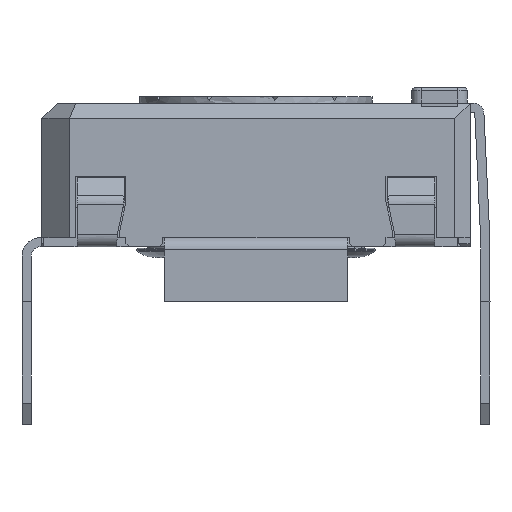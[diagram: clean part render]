
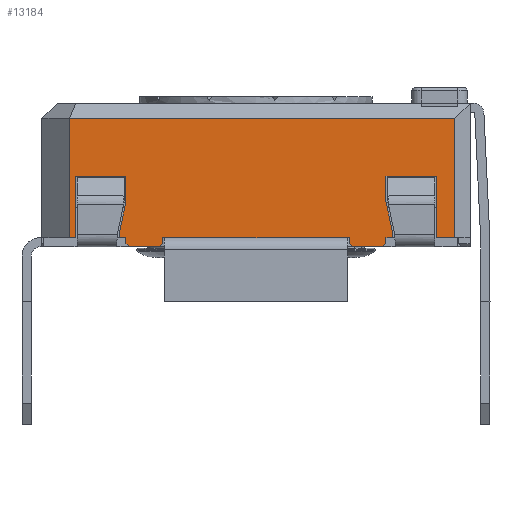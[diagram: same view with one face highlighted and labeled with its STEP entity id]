
A CAD part, left-side view. The second image highlights one B-rep face of the part: STEP entity #13184.
In plain terms, the highlighted planar face has unit normal (-1, 0, 0).
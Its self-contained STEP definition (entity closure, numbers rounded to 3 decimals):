
#1035=FACE_OUTER_BOUND('',#1735,.T.);
#1735=EDGE_LOOP('',(#10521,#10522,#10523,#10524,#10525,#10526,#10527,#10528,
#10529,#10530,#10531,#10532,#10533,#10534,#10535,#10536,#10537,#10538,#10539,
#10540,#10541,#10542,#10543,#10544,#10545,#10546,#10547,#10548));
#2122=LINE('',#18386,#3638);
#2127=LINE('',#18396,#3643);
#2132=LINE('',#18406,#3648);
#2791=LINE('',#20208,#4307);
#2796=LINE('',#20217,#4312);
#2799=LINE('',#20223,#4315);
#2803=LINE('',#20230,#4319);
#2827=LINE('',#20278,#4343);
#2830=LINE('',#20284,#4346);
#2835=LINE('',#20294,#4351);
#2838=LINE('',#20300,#4354);
#2841=LINE('',#20306,#4357);
#2859=LINE('',#20341,#4375);
#2871=LINE('',#20363,#4387);
#2874=LINE('',#20369,#4390);
#2911=LINE('',#20503,#4427);
#2919=LINE('',#20517,#4435);
#2928=LINE('',#20535,#4444);
#2933=LINE('',#20545,#4449);
#2935=LINE('',#20548,#4451);
#3056=LINE('',#20849,#4572);
#3058=LINE('',#20854,#4574);
#3061=LINE('',#20858,#4577);
#3063=LINE('',#20862,#4579);
#3066=LINE('',#20870,#4582);
#3067=LINE('',#20872,#4583);
#3068=LINE('',#20873,#4584);
#3069=LINE('',#20874,#4585);
#3638=VECTOR('',#14716,10.);
#3643=VECTOR('',#14721,10.);
#3648=VECTOR('',#14726,10.);
#4307=VECTOR('',#16243,10.);
#4312=VECTOR('',#16250,10.);
#4315=VECTOR('',#16255,10.);
#4319=VECTOR('',#16261,10.);
#4343=VECTOR('',#16305,10.);
#4346=VECTOR('',#16310,10.);
#4351=VECTOR('',#16317,10.);
#4354=VECTOR('',#16322,10.);
#4357=VECTOR('',#16327,10.);
#4375=VECTOR('',#16347,10.);
#4387=VECTOR('',#16361,10.);
#4390=VECTOR('',#16366,10.);
#4427=VECTOR('',#16447,10.);
#4435=VECTOR('',#16457,10.);
#4444=VECTOR('',#16468,10.);
#4449=VECTOR('',#16475,10.);
#4451=VECTOR('',#16479,10.);
#4572=VECTOR('',#16760,10.);
#4574=VECTOR('',#16764,10.);
#4577=VECTOR('',#16769,10.);
#4579=VECTOR('',#16775,10.);
#4582=VECTOR('',#16786,10.);
#4583=VECTOR('',#16787,10.);
#4584=VECTOR('',#16788,10.);
#4585=VECTOR('',#16789,10.);
#5146=VERTEX_POINT('',#18383);
#5147=VERTEX_POINT('',#18385);
#5151=VERTEX_POINT('',#18393);
#5152=VERTEX_POINT('',#18395);
#5156=VERTEX_POINT('',#18403);
#5157=VERTEX_POINT('',#18405);
#5714=VERTEX_POINT('',#20205);
#5715=VERTEX_POINT('',#20207);
#5719=VERTEX_POINT('',#20220);
#5722=VERTEX_POINT('',#20228);
#5735=VERTEX_POINT('',#20275);
#5737=VERTEX_POINT('',#20281);
#5741=VERTEX_POINT('',#20291);
#5743=VERTEX_POINT('',#20297);
#5746=VERTEX_POINT('',#20304);
#5762=VERTEX_POINT('',#20339);
#5771=VERTEX_POINT('',#20361);
#5773=VERTEX_POINT('',#20367);
#5800=VERTEX_POINT('',#20501);
#5805=VERTEX_POINT('',#20515);
#5812=VERTEX_POINT('',#20532);
#5816=VERTEX_POINT('',#20542);
#5890=VERTEX_POINT('',#20846);
#5891=VERTEX_POINT('',#20848);
#5892=VERTEX_POINT('',#20852);
#5893=VERTEX_POINT('',#20853);
#5894=VERTEX_POINT('',#20869);
#5895=VERTEX_POINT('',#20871);
#6408=EDGE_CURVE('',#5147,#5146,#2122,.T.);
#6413=EDGE_CURVE('',#5152,#5151,#2127,.T.);
#6418=EDGE_CURVE('',#5157,#5156,#2132,.T.);
#7253=EDGE_CURVE('',#5715,#5714,#2791,.T.);
#7258=EDGE_CURVE('',#5714,#5157,#2796,.T.);
#7261=EDGE_CURVE('',#5156,#5719,#2799,.T.);
#7265=EDGE_CURVE('',#5722,#5719,#2803,.T.);
#7290=EDGE_CURVE('',#5146,#5735,#2827,.T.);
#7293=EDGE_CURVE('',#5735,#5737,#2830,.T.);
#7298=EDGE_CURVE('',#5737,#5741,#2835,.T.);
#7301=EDGE_CURVE('',#5741,#5743,#2838,.T.);
#7304=EDGE_CURVE('',#5743,#5746,#2841,.T.);
#7322=EDGE_CURVE('',#5746,#5762,#2859,.T.);
#7334=EDGE_CURVE('',#5771,#5762,#2871,.T.);
#7337=EDGE_CURVE('',#5773,#5771,#2874,.T.);
#7386=EDGE_CURVE('',#5800,#5773,#2911,.T.);
#7394=EDGE_CURVE('',#5800,#5805,#2919,.T.);
#7403=EDGE_CURVE('',#5805,#5812,#2928,.T.);
#7408=EDGE_CURVE('',#5812,#5816,#2933,.T.);
#7410=EDGE_CURVE('',#5816,#5715,#2935,.T.);
#7547=EDGE_CURVE('',#5890,#5891,#3056,.T.);
#7549=EDGE_CURVE('',#5892,#5893,#3058,.T.);
#7552=EDGE_CURVE('',#5147,#5890,#3061,.T.);
#7554=EDGE_CURVE('',#5151,#5893,#3063,.T.);
#7557=EDGE_CURVE('',#5722,#5894,#3066,.T.);
#7558=EDGE_CURVE('',#5895,#5894,#3067,.T.);
#7559=EDGE_CURVE('',#5152,#5895,#3068,.T.);
#7560=EDGE_CURVE('',#5892,#5891,#3069,.T.);
#10521=ORIENTED_EDGE('',*,*,#7258,.T.);
#10522=ORIENTED_EDGE('',*,*,#6418,.T.);
#10523=ORIENTED_EDGE('',*,*,#7261,.T.);
#10524=ORIENTED_EDGE('',*,*,#7265,.F.);
#10525=ORIENTED_EDGE('',*,*,#7557,.T.);
#10526=ORIENTED_EDGE('',*,*,#7558,.F.);
#10527=ORIENTED_EDGE('',*,*,#7559,.F.);
#10528=ORIENTED_EDGE('',*,*,#6413,.T.);
#10529=ORIENTED_EDGE('',*,*,#7554,.T.);
#10530=ORIENTED_EDGE('',*,*,#7549,.F.);
#10531=ORIENTED_EDGE('',*,*,#7560,.T.);
#10532=ORIENTED_EDGE('',*,*,#7547,.F.);
#10533=ORIENTED_EDGE('',*,*,#7552,.F.);
#10534=ORIENTED_EDGE('',*,*,#6408,.T.);
#10535=ORIENTED_EDGE('',*,*,#7290,.T.);
#10536=ORIENTED_EDGE('',*,*,#7293,.T.);
#10537=ORIENTED_EDGE('',*,*,#7298,.T.);
#10538=ORIENTED_EDGE('',*,*,#7301,.T.);
#10539=ORIENTED_EDGE('',*,*,#7304,.T.);
#10540=ORIENTED_EDGE('',*,*,#7322,.T.);
#10541=ORIENTED_EDGE('',*,*,#7334,.F.);
#10542=ORIENTED_EDGE('',*,*,#7337,.F.);
#10543=ORIENTED_EDGE('',*,*,#7386,.F.);
#10544=ORIENTED_EDGE('',*,*,#7394,.T.);
#10545=ORIENTED_EDGE('',*,*,#7403,.T.);
#10546=ORIENTED_EDGE('',*,*,#7408,.T.);
#10547=ORIENTED_EDGE('',*,*,#7410,.T.);
#10548=ORIENTED_EDGE('',*,*,#7253,.T.);
#12343=PLANE('',#14080);
#13184=ADVANCED_FACE('',(#1035),#12343,.T.);
#14080=AXIS2_PLACEMENT_3D('',#20868,#16784,#16785);
#14716=DIRECTION('',(0.,-1.,0.));
#14721=DIRECTION('',(0.,-1.,0.));
#14726=DIRECTION('',(0.,-1.,0.));
#16243=DIRECTION('',(0.,0.208,-0.978));
#16250=DIRECTION('',(0.,0.,-1.));
#16255=DIRECTION('',(0.,0.,-1.));
#16261=DIRECTION('',(0.,0.707,0.707));
#16305=DIRECTION('',(0.,0.,1.));
#16310=DIRECTION('',(0.,0.208,0.978));
#16317=DIRECTION('',(0.,0.,1.));
#16322=DIRECTION('',(0.,-1.,0.));
#16327=DIRECTION('',(0.,0.,-1.));
#16347=DIRECTION('',(0.,-1.,0.));
#16361=DIRECTION('',(0.,0.,-1.));
#16366=DIRECTION('',(0.,-1.,0.));
#16447=DIRECTION('',(0.,0.,1.));
#16457=DIRECTION('',(0.,-1.,0.));
#16468=DIRECTION('',(0.,0.,1.));
#16475=DIRECTION('',(0.,-1.,0.));
#16479=DIRECTION('',(0.,0.,-1.));
#16760=DIRECTION('',(0.,0.707,-0.707));
#16764=DIRECTION('',(0.,0.707,0.707));
#16769=DIRECTION('',(0.,0.,-1.));
#16775=DIRECTION('',(0.,0.,-1.));
#16784=DIRECTION('center_axis',(-1.,0.,0.));
#16785=DIRECTION('ref_axis',(0.,0.,1.));
#16786=DIRECTION('',(0.,-1.,0.));
#16787=DIRECTION('',(0.,0.707,-0.707));
#16788=DIRECTION('',(0.,0.,-1.));
#16789=DIRECTION('',(0.,-1.,0.));
#18383=CARTESIAN_POINT('',(-14.467,-7.348,0.));
#18385=CARTESIAN_POINT('',(-14.467,-7.148,0.));
#18386=CARTESIAN_POINT('',(-14.467,4.102,0.));
#18393=CARTESIAN_POINT('',(-14.467,-5.948,0.));
#18395=CARTESIAN_POINT('',(-14.467,0.152,0.));
#18396=CARTESIAN_POINT('',(-14.467,4.102,0.));
#18403=CARTESIAN_POINT('',(-14.467,1.352,0.));
#18405=CARTESIAN_POINT('',(-14.467,1.552,0.));
#18406=CARTESIAN_POINT('',(-14.467,4.102,0.));
#20205=CARTESIAN_POINT('',(-14.467,1.552,0.235));
#20207=CARTESIAN_POINT('',(-14.467,1.352,1.176));
#20208=CARTESIAN_POINT('',(-14.467,1.228,1.757));
#20217=CARTESIAN_POINT('',(-14.467,1.552,0.));
#20220=CARTESIAN_POINT('',(-14.467,1.352,-0.2));
#20223=CARTESIAN_POINT('',(-14.467,1.352,0.));
#20228=CARTESIAN_POINT('',(-14.467,1.252,-0.3));
#20230=CARTESIAN_POINT('',(-14.467,-1.436,-2.988));
#20275=CARTESIAN_POINT('',(-14.467,-7.348,0.235));
#20278=CARTESIAN_POINT('',(-14.467,-7.348,0.118));
#20281=CARTESIAN_POINT('',(-14.467,-7.148,1.176));
#20284=CARTESIAN_POINT('',(-14.467,-7.453,-0.254));
#20291=CARTESIAN_POINT('',(-14.467,-7.148,2.));
#20294=CARTESIAN_POINT('',(-14.467,-7.148,0.588));
#20297=CARTESIAN_POINT('',(-14.467,-8.798,2.));
#20300=CARTESIAN_POINT('',(-14.467,-8.523,2.));
#20304=CARTESIAN_POINT('',(-14.467,-8.798,0.));
#20306=CARTESIAN_POINT('',(-14.467,-8.798,0.));
#20339=CARTESIAN_POINT('',(-14.467,-9.398,0.));
#20341=CARTESIAN_POINT('',(-14.467,-9.595,0.));
#20361=CARTESIAN_POINT('',(-14.467,-9.398,3.9));
#20363=CARTESIAN_POINT('',(-14.467,-9.398,0.));
#20367=CARTESIAN_POINT('',(-14.467,3.202,3.9));
#20369=CARTESIAN_POINT('',(-14.467,-6.398,3.9));
#20501=CARTESIAN_POINT('',(-14.467,3.202,0.));
#20503=CARTESIAN_POINT('',(-14.467,3.202,0.));
#20515=CARTESIAN_POINT('',(-14.467,3.002,0.));
#20517=CARTESIAN_POINT('',(-14.467,-2.985,0.));
#20532=CARTESIAN_POINT('',(-14.467,3.002,2.));
#20535=CARTESIAN_POINT('',(-14.467,3.002,0.));
#20542=CARTESIAN_POINT('',(-14.467,1.352,2.));
#20545=CARTESIAN_POINT('',(-14.467,-3.448,2.));
#20548=CARTESIAN_POINT('',(-14.467,1.352,1.));
#20846=CARTESIAN_POINT('',(-14.467,-7.148,-0.2));
#20848=CARTESIAN_POINT('',(-14.467,-7.048,-0.3));
#20849=CARTESIAN_POINT('',(-14.467,-7.861,0.513));
#20852=CARTESIAN_POINT('',(-14.467,-6.048,-0.3));
#20853=CARTESIAN_POINT('',(-14.467,-5.948,-0.2));
#20854=CARTESIAN_POINT('',(-14.467,-6.911,-1.163));
#20858=CARTESIAN_POINT('',(-14.467,-7.148,0.));
#20862=CARTESIAN_POINT('',(-14.467,-5.948,0.));
#20868=CARTESIAN_POINT('Origin',(-14.467,-9.898,0.));
#20869=CARTESIAN_POINT('',(-14.467,0.252,-0.3));
#20870=CARTESIAN_POINT('',(-14.467,0.152,-0.3));
#20871=CARTESIAN_POINT('',(-14.467,0.152,-0.2));
#20872=CARTESIAN_POINT('',(-14.467,-2.386,2.338));
#20873=CARTESIAN_POINT('',(-14.467,0.152,0.));
#20874=CARTESIAN_POINT('',(-14.467,-7.148,-0.3));
